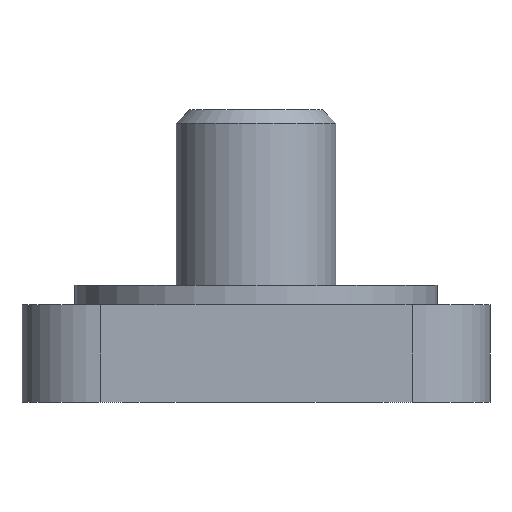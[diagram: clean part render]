
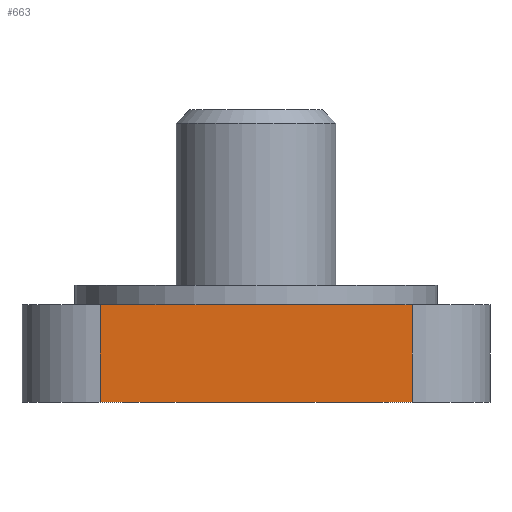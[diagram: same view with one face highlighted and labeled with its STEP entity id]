
A CAD part, front view. The second image highlights one B-rep face of the part: STEP entity #663.
In plain terms, the highlighted planar face has unit normal (0, -1, 0).
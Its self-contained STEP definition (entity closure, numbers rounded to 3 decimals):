
#44 = PLANE('',#45);
#45 = AXIS2_PLACEMENT_3D('',#46,#47,#48);
#46 = CARTESIAN_POINT('',(-6.,-7.5,-0.5));
#47 = DIRECTION('',(0.,0.,1.));
#48 = DIRECTION('',(1.,0.,0.));
#72 = CYLINDRICAL_SURFACE('',#73,2.);
#73 = AXIS2_PLACEMENT_3D('',#74,#75,#76);
#74 = CARTESIAN_POINT('',(-4.,-5.5,-3.));
#75 = DIRECTION('',(0.,0.,1.));
#76 = DIRECTION('',(-1.,-0.,0.));
#100 = PLANE('',#101);
#101 = AXIS2_PLACEMENT_3D('',#102,#103,#104);
#102 = CARTESIAN_POINT('',(-6.,-7.5,-3.));
#103 = DIRECTION('',(0.,0.,1.));
#104 = DIRECTION('',(1.,0.,0.));
#143 = VERTEX_POINT('',#144);
#144 = CARTESIAN_POINT('',(-4.,-7.5,-0.5));
#166 = EDGE_CURVE('',#143,#167,#169,.T.);
#167 = VERTEX_POINT('',#168);
#168 = CARTESIAN_POINT('',(4.,-7.5,-0.5));
#169 = SURFACE_CURVE('',#170,(#174,#181),.PCURVE_S1.);
#170 = LINE('',#171,#172);
#171 = CARTESIAN_POINT('',(-6.,-7.5,-0.5));
#172 = VECTOR('',#173,1.);
#173 = DIRECTION('',(1.,0.,0.));
#174 = PCURVE('',#44,#175);
#175 = DEFINITIONAL_REPRESENTATION('',(#176),#180);
#176 = LINE('',#177,#178);
#177 = CARTESIAN_POINT('',(0.,0.));
#178 = VECTOR('',#179,1.);
#179 = DIRECTION('',(1.,0.));
#180 = ( GEOMETRIC_REPRESENTATION_CONTEXT(2) 
PARAMETRIC_REPRESENTATION_CONTEXT() REPRESENTATION_CONTEXT('2D SPACE',''
  ) );
#181 = PCURVE('',#182,#187);
#182 = PLANE('',#183);
#183 = AXIS2_PLACEMENT_3D('',#184,#185,#186);
#184 = CARTESIAN_POINT('',(-6.,-7.5,-3.));
#185 = DIRECTION('',(0.,1.,0.));
#186 = DIRECTION('',(0.,0.,1.));
#187 = DEFINITIONAL_REPRESENTATION('',(#188),#192);
#188 = LINE('',#189,#190);
#189 = CARTESIAN_POINT('',(2.5,0.));
#190 = VECTOR('',#191,1.);
#191 = DIRECTION('',(0.,1.));
#192 = ( GEOMETRIC_REPRESENTATION_CONTEXT(2) 
PARAMETRIC_REPRESENTATION_CONTEXT() REPRESENTATION_CONTEXT('2D SPACE',''
  ) );
#215 = CYLINDRICAL_SURFACE('',#216,2.);
#216 = AXIS2_PLACEMENT_3D('',#217,#218,#219);
#217 = CARTESIAN_POINT('',(4.,-5.5,-3.));
#218 = DIRECTION('',(0.,0.,1.));
#219 = DIRECTION('',(1.,0.,-0.));
#404 = VERTEX_POINT('',#405);
#405 = CARTESIAN_POINT('',(-4.,-7.5,-3.));
#427 = EDGE_CURVE('',#404,#143,#428,.T.);
#428 = SURFACE_CURVE('',#429,(#433,#440),.PCURVE_S1.);
#429 = LINE('',#430,#431);
#430 = CARTESIAN_POINT('',(-4.,-7.5,-3.));
#431 = VECTOR('',#432,1.);
#432 = DIRECTION('',(0.,0.,1.));
#433 = PCURVE('',#72,#434);
#434 = DEFINITIONAL_REPRESENTATION('',(#435),#439);
#435 = LINE('',#436,#437);
#436 = CARTESIAN_POINT('',(1.571,0.));
#437 = VECTOR('',#438,1.);
#438 = DIRECTION('',(0.,1.));
#439 = ( GEOMETRIC_REPRESENTATION_CONTEXT(2) 
PARAMETRIC_REPRESENTATION_CONTEXT() REPRESENTATION_CONTEXT('2D SPACE',''
  ) );
#440 = PCURVE('',#182,#441);
#441 = DEFINITIONAL_REPRESENTATION('',(#442),#446);
#442 = LINE('',#443,#444);
#443 = CARTESIAN_POINT('',(0.,2.));
#444 = VECTOR('',#445,1.);
#445 = DIRECTION('',(1.,0.));
#446 = ( GEOMETRIC_REPRESENTATION_CONTEXT(2) 
PARAMETRIC_REPRESENTATION_CONTEXT() REPRESENTATION_CONTEXT('2D SPACE',''
  ) );
#509 = EDGE_CURVE('',#404,#510,#512,.T.);
#510 = VERTEX_POINT('',#511);
#511 = CARTESIAN_POINT('',(4.,-7.5,-3.));
#512 = SURFACE_CURVE('',#513,(#517,#524),.PCURVE_S1.);
#513 = LINE('',#514,#515);
#514 = CARTESIAN_POINT('',(-6.,-7.5,-3.));
#515 = VECTOR('',#516,1.);
#516 = DIRECTION('',(1.,0.,0.));
#517 = PCURVE('',#100,#518);
#518 = DEFINITIONAL_REPRESENTATION('',(#519),#523);
#519 = LINE('',#520,#521);
#520 = CARTESIAN_POINT('',(0.,0.));
#521 = VECTOR('',#522,1.);
#522 = DIRECTION('',(1.,0.));
#523 = ( GEOMETRIC_REPRESENTATION_CONTEXT(2) 
PARAMETRIC_REPRESENTATION_CONTEXT() REPRESENTATION_CONTEXT('2D SPACE',''
  ) );
#524 = PCURVE('',#182,#525);
#525 = DEFINITIONAL_REPRESENTATION('',(#526),#530);
#526 = LINE('',#527,#528);
#527 = CARTESIAN_POINT('',(0.,0.));
#528 = VECTOR('',#529,1.);
#529 = DIRECTION('',(0.,1.));
#530 = ( GEOMETRIC_REPRESENTATION_CONTEXT(2) 
PARAMETRIC_REPRESENTATION_CONTEXT() REPRESENTATION_CONTEXT('2D SPACE',''
  ) );
#663 = ADVANCED_FACE('',(#664),#182,.F.);
#664 = FACE_BOUND('',#665,.F.);
#665 = EDGE_LOOP('',(#666,#667,#668,#669));
#666 = ORIENTED_EDGE('',*,*,#509,.F.);
#667 = ORIENTED_EDGE('',*,*,#427,.T.);
#668 = ORIENTED_EDGE('',*,*,#166,.T.);
#669 = ORIENTED_EDGE('',*,*,#670,.F.);
#670 = EDGE_CURVE('',#510,#167,#671,.T.);
#671 = SURFACE_CURVE('',#672,(#676,#683),.PCURVE_S1.);
#672 = LINE('',#673,#674);
#673 = CARTESIAN_POINT('',(4.,-7.5,-3.));
#674 = VECTOR('',#675,1.);
#675 = DIRECTION('',(0.,0.,1.));
#676 = PCURVE('',#182,#677);
#677 = DEFINITIONAL_REPRESENTATION('',(#678),#682);
#678 = LINE('',#679,#680);
#679 = CARTESIAN_POINT('',(0.,10.));
#680 = VECTOR('',#681,1.);
#681 = DIRECTION('',(1.,0.));
#682 = ( GEOMETRIC_REPRESENTATION_CONTEXT(2) 
PARAMETRIC_REPRESENTATION_CONTEXT() REPRESENTATION_CONTEXT('2D SPACE',''
  ) );
#683 = PCURVE('',#215,#684);
#684 = DEFINITIONAL_REPRESENTATION('',(#685),#689);
#685 = LINE('',#686,#687);
#686 = CARTESIAN_POINT('',(-1.571,0.));
#687 = VECTOR('',#688,1.);
#688 = DIRECTION('',(-0.,1.));
#689 = ( GEOMETRIC_REPRESENTATION_CONTEXT(2) 
PARAMETRIC_REPRESENTATION_CONTEXT() REPRESENTATION_CONTEXT('2D SPACE',''
  ) );
